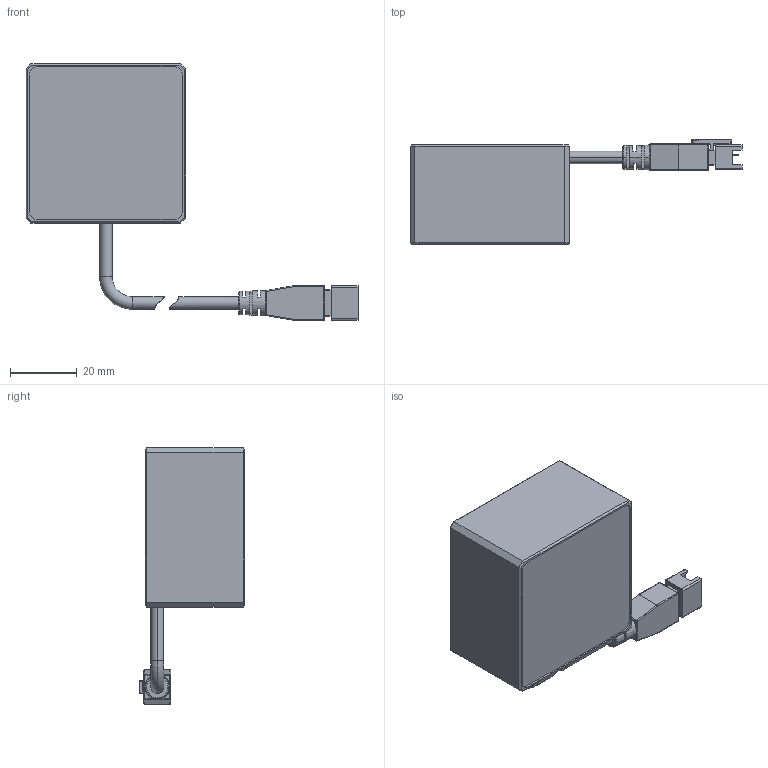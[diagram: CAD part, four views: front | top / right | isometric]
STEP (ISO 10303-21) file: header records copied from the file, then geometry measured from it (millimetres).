
FILE_DESCRIPTION((''),'2;1');
FILE_NAME('P-FQ-48-JIANYI3D_ASM','2014-10-31T',('Administrator'),(''),'PRO/ENGINEER BY PARAMETRIC TECHNOLOGY CORPORATION, 2011220','PRO/ENGINEER BY PARAMETRIC TECHNOLOGY CORPORATION, 2011220','');
FILE_SCHEMA(('CONFIG_CONTROL_DESIGN'));
Length unit declared in the file: millimetre
Products named in the file (3): P-FQ-48-3D; LINE_TOU-_TM; P-FQ-48-JIANYI3D_ASM
Assembly tree (2 placements, depth 2):
  P-FQ-48-JIANYI3D_ASM
    P-FQ-48-3D
    LINE_TOU-_TM
Bounding box: 99.8 x 31.75 x 77.25 mm (x, y, z)
Volume: 70375.5 mm3; surface area: 13225.7 mm2
Topology: 3 solids, 7 shells, 287 faces, 714 edges, 442 vertices
Faces by surface type: plane 162, cylinder 83, cone 14, torus 10, bspline 8, sphere 8, extrusion 2
Entity records: 8676 total; most frequent: CARTESIAN_POINT 1749, DIRECTION 1454, ORIENTED_EDGE 1392, EDGE_CURVE 704, AXIS2_PLACEMENT_3D 494, VECTOR 466, LINE 464, VERTEX_POINT 442
